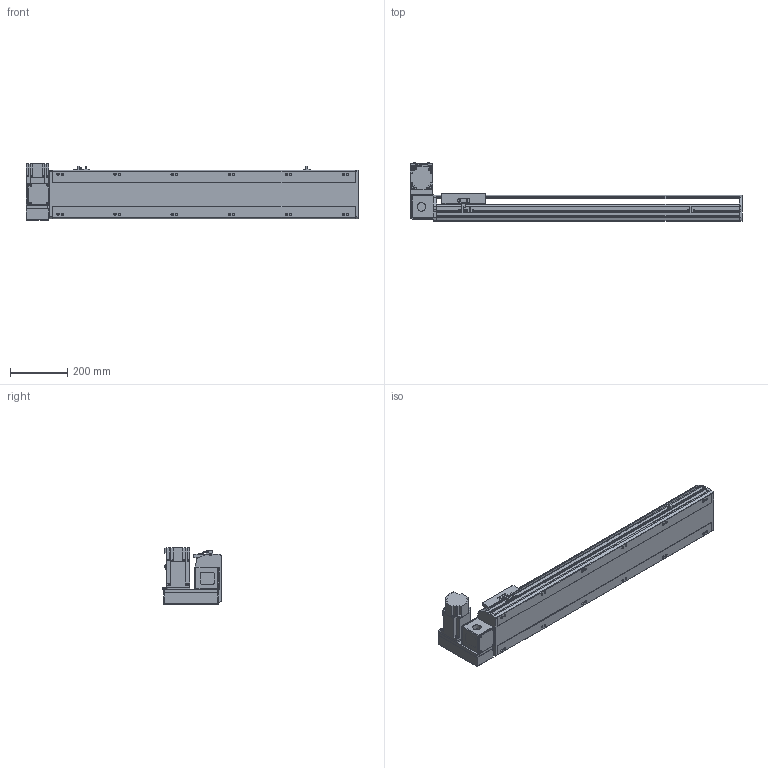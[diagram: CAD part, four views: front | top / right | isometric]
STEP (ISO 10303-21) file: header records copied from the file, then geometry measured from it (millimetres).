
FILE_DESCRIPTION( ( 'STEP AP214' ), '1' );
FILE_NAME( 'x:/temp/worker_4/temp/exporttempdir_2248_390_uyLlD/format_0/PBS170-P40-S800-LU-T75-C1-N(0).stp', '2022-06-07T08:14:46', ( 'License CC BY-ND 4.0' ), ( 'CADENAS' ), ' ', 'PARTsolutions', ' ' );
FILE_SCHEMA( ( 'AUTOMOTIVE_DESIGN { 1 0 10303 214 1 1 1 1 }' ) );
Length unit declared in the file: millimetre
Products named in the file (7): PBS170-P40-S800-LU-T75-C1-N(0); _PBS170-S800()_body; _PBS170T-LU_motors; _T75-p1; _PBS170_sliser; _PBS170_plant; _PBS170_sensor
Assembly tree (8 placements, depth 2):
  PBS170-P40-S800-LU-T75-C1-N(0)
    _PBS170-S800()_body
    _PBS170T-LU_motors
    _T75-p1
    _PBS170_sliser
    _PBS170_plant
    _PBS170_sensor  x3
Bounding box: 1163 x 206 x 197.3 mm (x, y, z)
Volume: 9567605.9 mm3; surface area: 1267361.5 mm2
Topology: 8 solids, 8 shells, 1050 faces, 2795 edges, 1822 vertices
Faces by surface type: plane 675, cylinder 323, cone 42, sphere 8, torus 2
Full cylindrical faces by diameter (mm): 3.242 x4, 4 x2, 4.4 x4, 4.5 x6, 4.917 x4, 6 x9, 6.647 x20, 7 x2, 7.5 x4, 8 x8, 8.5 x12, 10 x4, 10.5 x12, 11 x2, 30 x2, 40 x1, 70 x1
Entity records: 38456 total; most frequent: CARTESIAN_POINT 5885, DIRECTION 5160, ORIENTED_EDGE 4908, EDGE_CURVE 2454, AXIS2_PLACEMENT_3D 1777, VERTEX_POINT 1682, LINE 1606, VECTOR 1606
